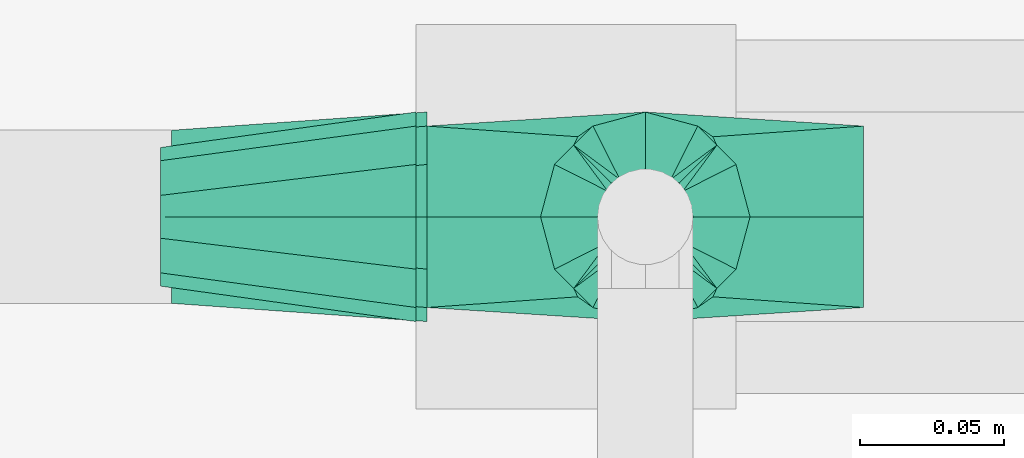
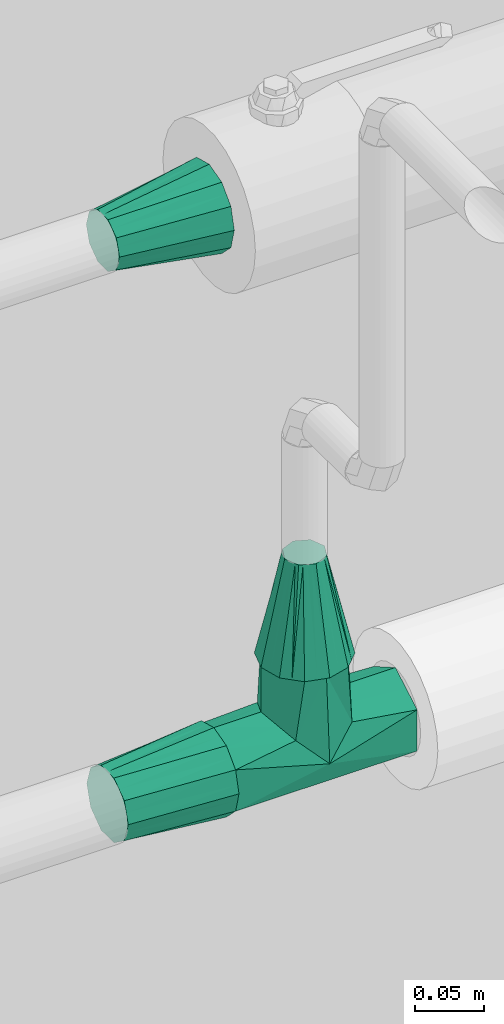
# One storey, part 92 of 94: 4 flow fittings.
"""IFC2X3 building model written with IfcOpenShell, lengths in millimetres."""

from ifc_helpers import new_model, entity, si_unit, converted_unit, derived_unit, direction, frame, origin, place, context, subcontext, project, spatial, faceted_brep, source, transform, mapped, material, type_object, type_shapes, element, save


model = new_model("IFC2X3")

# Units and contexts
model_context = context("Model", 3, precision=0.01, world=origin(), true_north=direction((6.123031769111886e-17, 1.0)))
body_context = subcontext(model_context, "Body", "Model", "MODEL_VIEW")
ifc_project = project(units=[si_unit("LENGTHUNIT", "METRE", prefix="MILLI"), si_unit("AREAUNIT", "SQUARE_METRE"), si_unit("VOLUMEUNIT", "CUBIC_METRE"), converted_unit("PLANEANGLEUNIT", "DEGREE", entity("IfcRatioMeasure", 0.017453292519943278), si_unit("PLANEANGLEUNIT", "RADIAN"), dimensions=[0, 0, 0, 0, 0, 0, 0]), si_unit("MASSUNIT", "GRAM", prefix="KILO"), derived_unit("MASSDENSITYUNIT", [(si_unit("MASSUNIT", "GRAM", prefix="KILO"), 1), (si_unit("LENGTHUNIT", "METRE"), -3)]), derived_unit("IONCONCENTRATIONUNIT", [(si_unit("MASSUNIT", "GRAM", prefix="KILO"), 1), (si_unit("LENGTHUNIT", "METRE"), -3)]), derived_unit("MOMENTOFINERTIAUNIT", [(si_unit("LENGTHUNIT", "METRE"), 4)]), si_unit("TIMEUNIT", "SECOND"), si_unit("FREQUENCYUNIT", "HERTZ"), si_unit("THERMODYNAMICTEMPERATUREUNIT", "DEGREE_CELSIUS"), derived_unit("THERMALTRANSMITTANCEUNIT", [(si_unit("MASSUNIT", "GRAM", prefix="KILO"), 1), (si_unit("THERMODYNAMICTEMPERATUREUNIT", "KELVIN"), -1), (si_unit("TIMEUNIT", "SECOND"), -3)]), derived_unit("THERMALCONDUCTANCEUNIT", [(si_unit("MASSUNIT", "GRAM", prefix="KILO"), 1), (si_unit("THERMODYNAMICTEMPERATUREUNIT", "KELVIN"), -1), (si_unit("TIMEUNIT", "SECOND"), -3), (si_unit("LENGTHUNIT", "METRE"), 1)]), derived_unit("VOLUMETRICFLOWRATEUNIT", [(si_unit("LENGTHUNIT", "METRE"), 3), (si_unit("TIMEUNIT", "SECOND"), -1)]), derived_unit("MASSFLOWRATEUNIT", [(si_unit("MASSUNIT", "GRAM", prefix="KILO"), 1), (si_unit("TIMEUNIT", "SECOND"), -1)]), derived_unit("ROTATIONALFREQUENCYUNIT", [(si_unit("TIMEUNIT", "SECOND"), -1)]), si_unit("ELECTRICCURRENTUNIT", "AMPERE"), si_unit("ELECTRICVOLTAGEUNIT", "VOLT"), si_unit("POWERUNIT", "WATT"), si_unit("FORCEUNIT", "NEWTON", prefix="KILO"), si_unit("ILLUMINANCEUNIT", "LUX"), si_unit("LUMINOUSFLUXUNIT", "LUMEN"), si_unit("LUMINOUSINTENSITYUNIT", "CANDELA"), derived_unit("USERDEFINED", [(si_unit("MASSUNIT", "GRAM", prefix="KILO"), -1), (si_unit("LENGTHUNIT", "METRE"), -2), (si_unit("TIMEUNIT", "SECOND"), 3), (si_unit("LUMINOUSFLUXUNIT", "LUMEN"), 1)]), derived_unit("USERDEFINED", [(si_unit("MASSUNIT", "GRAM", prefix="KILO"), 1), (si_unit("TIMEUNIT", "SECOND"), -3), (si_unit("LENGTHUNIT", "METRE"), 3), (si_unit("ELECTRICCURRENTUNIT", "AMPERE"), -2)]), derived_unit("SOUNDPOWERUNIT", [(si_unit("MASSUNIT", "GRAM", prefix="KILO"), 1), (si_unit("TIMEUNIT", "SECOND"), -3), (si_unit("LENGTHUNIT", "METRE"), 2)]), derived_unit("SOUNDPRESSUREUNIT", [(si_unit("MASSUNIT", "GRAM", prefix="KILO"), 1), (si_unit("LENGTHUNIT", "METRE"), -1), (si_unit("TIMEUNIT", "SECOND"), -2)]), derived_unit("LINEARVELOCITYUNIT", [(si_unit("LENGTHUNIT", "METRE"), 1), (si_unit("TIMEUNIT", "SECOND"), -1)]), si_unit("PRESSUREUNIT", "PASCAL"), derived_unit("USERDEFINED", [(si_unit("MASSUNIT", "GRAM", prefix="KILO"), 1), (si_unit("LENGTHUNIT", "METRE"), -2), (si_unit("TIMEUNIT", "SECOND"), -2)]), derived_unit("LINEARFORCEUNIT", [(si_unit("MASSUNIT", "GRAM", prefix="KILO"), 1), (si_unit("TIMEUNIT", "SECOND"), -2)]), derived_unit("PLANARFORCEUNIT", [(si_unit("MASSUNIT", "GRAM", prefix="KILO"), 1), (si_unit("LENGTHUNIT", "METRE"), -1), (si_unit("TIMEUNIT", "SECOND"), -2)]), derived_unit("SPECIFICHEATCAPACITYUNIT", [(si_unit("THERMODYNAMICTEMPERATUREUNIT", "KELVIN"), -1), (si_unit("LENGTHUNIT", "METRE"), 2), (si_unit("TIMEUNIT", "SECOND"), -2)]), derived_unit("HEATINGVALUEUNIT", [(si_unit("LENGTHUNIT", "METRE"), 2), (si_unit("TIMEUNIT", "SECOND"), -2)]), derived_unit("VAPORPERMEABILITYUNIT", [(si_unit("LENGTHUNIT", "METRE"), -1), (si_unit("TIMEUNIT", "SECOND"), 1)]), derived_unit("DYNAMICVISCOSITYUNIT", [(si_unit("MASSUNIT", "GRAM", prefix="KILO"), 1), (si_unit("TIMEUNIT", "SECOND"), -1), (si_unit("LENGTHUNIT", "METRE"), -1)]), derived_unit("THERMALEXPANSIONCOEFFICIENTUNIT", [(si_unit("THERMODYNAMICTEMPERATUREUNIT", "KELVIN"), -1)]), derived_unit("MODULUSOFELASTICITYUNIT", [(si_unit("MASSUNIT", "GRAM", prefix="KILO"), 1), (si_unit("LENGTHUNIT", "METRE"), -1), (si_unit("TIMEUNIT", "SECOND"), -2)]), derived_unit("ISOTHERMALMOISTURECAPACITYUNIT", [(si_unit("LENGTHUNIT", "METRE"), 3), (si_unit("MASSUNIT", "GRAM", prefix="KILO"), -1)]), derived_unit("MOISTUREDIFFUSIVITYUNIT", [(si_unit("TIMEUNIT", "SECOND"), -1), (si_unit("LENGTHUNIT", "METRE"), 2)])], contexts=[model_context])

# Site, building, storey
site_placement = place(None, origin())
site = spatial("IfcSite", under=ifc_project, at=site_placement, Name="Default", CompositionType="ELEMENT")
building_placement = place(site_placement, origin())
building = spatial("IfcBuilding", under=site, at=building_placement, CompositionType="ELEMENT")
storey_placement = place(building_placement, origin())
storey = spatial("IfcBuildingStorey", under=building, at=storey_placement, Name="Niveau 0", CompositionType="ELEMENT", Elevation=0.0)

# Flow fittings
ifc_material = material(Name="<Unnamed>")
pipe_fitting_type_1 = type_object("IfcPipeFittingType", Name="Té - Générique:Standard", PredefinedType="NOTDEFINED", material=ifc_material)
shared_shape_1 = source(origin(), body_context, "Body", "Brep", [
    faceted_brep([(-76.0, -27.37500000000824, -15.804963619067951), (-76.0, -36.50000000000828, 0.0), (-76.0, -27.375000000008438, 15.804963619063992), (-76.0, -18.250000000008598, 31.609927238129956), (-76.0, 0.0, 31.609927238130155), (-76.0, 18.249999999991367, 31.609927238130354), (-76.0, 27.374999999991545, 15.804963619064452), (-76.0, 36.49999999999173, 0.0), (-76.0, 24.406706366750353, -20.946199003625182), (-76.0, 18.24999999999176, -31.609927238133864), (-76.0, 0.0, -31.609927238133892), (-76.0, -18.25000000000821, -31.60992723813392), (76.0, 18.24999999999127, -31.609927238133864), (76.0, 27.374999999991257, -15.804963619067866), (76.0, 36.49999999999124, 0.0), (76.0, 24.40670693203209, 20.946198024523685), (76.0, 18.24999999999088, 31.609927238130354), (76.0, 0.0, 31.609927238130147), (76.0, -18.250000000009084, 31.609927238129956), (76.0, -27.375000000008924, 15.804963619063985), (76.0, -36.50000000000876, 0.0), (76.0, -27.37500000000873, -15.804963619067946), (76.0, -18.250000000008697, -31.60992723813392), (76.0, 0.0, -31.60992723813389), (30.02820426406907, -30.028204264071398, 13.940459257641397), (23.55640852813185, -23.556408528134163, 27.880918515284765), (-23.556408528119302, -23.556408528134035, 27.880918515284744), (-30.028204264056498, -30.02820426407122, 13.940459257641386), (0.0, 0.0, 36.49999999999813), (31.4301047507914, -31.430104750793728, 10.920719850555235), (36.500000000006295, -36.50000000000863, 0.0), (-36.49999999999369, -36.5000000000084, 0.0), (-31.430105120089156, -31.430105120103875, 10.920719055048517), (30.028204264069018, -30.02820426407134, -13.940459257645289), (0.0, 0.0, -36.50000000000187), (-23.556408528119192, -23.556408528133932, -27.880918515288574), (23.556408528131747, -23.556408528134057, -27.880918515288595), (31.430105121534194, -31.430105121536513, -10.920719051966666), (-30.02820426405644, -30.028204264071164, -13.940459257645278), (-31.4301048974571, -31.430104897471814, -10.92071953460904), (18.25000000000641, -76.0, -31.609927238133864), (27.37500000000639, -76.0, -15.804963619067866), (36.500000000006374, -76.0, 0.0), (27.37500000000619, -76.0, 15.804963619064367), (18.250000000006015, -76.0, 31.609927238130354), (0.0, -76.0, 31.609927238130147), (-18.249999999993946, -76.0, 31.609927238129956), (-27.374999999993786, -76.0, 15.804963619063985), (-36.499999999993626, -76.0, 0.0), (-27.374999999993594, -76.0, -15.804963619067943), (-18.24999999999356, -76.0, -31.60992723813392), (0.0, -76.0, -31.609927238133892)], [[[0, 1, 2, 3, 4, 5, 6, 7, 8, 9, 10, 11]], [[12, 13, 14, 15, 16, 17, 18, 19, 20, 21, 22, 23]], [[24, 20, 19]], [[25, 19, 18]], [[26, 3, 2]], [[19, 25, 24]], [[27, 26, 2]], [[28, 18, 17, 16]], [[20, 24, 29, 30]], [[1, 31, 32, 27]], [[28, 5, 4, 3]], [[1, 27, 2]], [[5, 16, 15, 14, 7, 6]], [[3, 26, 28]], [[5, 28, 16]], [[28, 25, 18]], [[12, 9, 8, 7, 14, 13]], [[20, 33, 21]], [[11, 34, 35]], [[9, 12, 34]], [[36, 22, 21]], [[10, 9, 34, 11]], [[34, 12, 23, 22]], [[20, 30, 37, 33]], [[1, 38, 39, 31]], [[21, 33, 36]], [[0, 38, 1]], [[0, 35, 38]], [[35, 0, 11]], [[36, 34, 22]], [[40, 41, 42, 43, 44, 45, 46, 47, 48, 49, 50, 51]], [[26, 47, 46]], [[48, 32, 31]], [[32, 48, 47]], [[26, 46, 45]], [[45, 44, 25]], [[42, 30, 29]], [[29, 43, 42]], [[47, 26, 27, 32]], [[26, 45, 28]], [[43, 25, 44]], [[45, 25, 28]], [[43, 29, 24, 25]], [[36, 41, 40]], [[49, 39, 38, 35]], [[41, 36, 33, 37]], [[37, 42, 41]], [[36, 40, 51]], [[51, 50, 35]], [[51, 35, 34]], [[39, 49, 48]], [[42, 37, 30]], [[48, 31, 39]], [[36, 51, 34]], [[49, 35, 50]]]),
])
type_shapes(pipe_fitting_type_1, [shared_shape_1])
flow_fitting_1_placement = place(storey_placement, frame((-10883.23321817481, 9922.47054616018, 877.6034575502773), z_axis=(0.0, 1.0, 0.0), x_axis=(1.0, 0.0, 0.0)))
element("IfcFlowFitting", 1, at=flow_fitting_1_placement, inside=storey, type_object=pipe_fitting_type_1, material=ifc_material, Name="Té - Générique:Standard", ObjectType="Té - Générique:Standard", context=body_context, shape_type="MappedRepresentation", body=[
    mapped(shared_shape_1, transform((0.0, 0.0, 0.0), scale=1.0)),
])
pipe_fitting_type_2 = type_object("IfcPipeFittingType", Name="Transformation - Générique:Standard", PredefinedType="NOTDEFINED", material=ifc_material)
shared_shape_2 = source(origin(), body_context, "Body", "Brep", [
    faceted_brep([(89.0, 16.699999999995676, 0.0), (89.0, 15.477170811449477, 2.9521708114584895), (89.0, 14.254341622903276, 5.904341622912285), (89.0, 13.031512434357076, 8.85651243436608), (89.0, 11.808683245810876, 11.808683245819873), (89.0, 8.856512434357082, 13.03151243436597), (89.0, 5.90434162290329, 14.254341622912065), (89.0, 2.952170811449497, 15.477170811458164), (89.0, 0.0, 16.70000000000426), (89.0, -2.9521708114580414, 15.47717081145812), (89.0, -5.904341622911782, 14.254341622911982), (89.0, -8.856512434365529, 13.031512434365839), (89.0, -11.808683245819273, 11.808683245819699), (89.0, -13.03151243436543, 8.856512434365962), (89.0, -14.254341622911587, 5.904341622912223), (89.0, -15.477170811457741, 2.9521708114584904), (89.0, -16.70000000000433, 0.0), (89.0, -15.477170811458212, -2.9521708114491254), (89.0, -14.254341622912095, -5.904341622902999), (89.0, -13.03151243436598, -8.85651243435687), (89.0, -11.80868324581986, -11.808683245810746), (89.0, -8.856512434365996, -13.031512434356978), (89.0, -5.90434162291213, -14.254341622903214), (89.0, -2.9521708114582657, -15.477170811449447), (89.0, 0.0, -16.699999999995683), (89.0, 2.9521708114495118, -15.477170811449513), (89.0, 5.9043416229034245, -14.254341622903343), (89.0, 8.856512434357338, -13.031512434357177), (89.0, 11.808683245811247, -11.808683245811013), (89.0, 13.03151243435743, -8.856512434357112), (89.0, 14.25434162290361, -5.904341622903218), (89.0, 15.477170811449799, -2.952170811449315), (0.0, 24.929963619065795, 24.929963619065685), (0.0, 31.609927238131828, 18.24999999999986), (0.0, 34.054963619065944, 9.124999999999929), (0.0, 36.50000000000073, 0.0), (0.0, 34.054963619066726, -9.12500000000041), (0.0, 31.609927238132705, -18.25000000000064), (0.0, 24.929963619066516, -24.929963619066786), (0.0, 18.25000000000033, -31.609927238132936), (0.0, 9.125000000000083, -34.0549636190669), (0.0, 0.0, -36.50000000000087), (0.0, -9.12500000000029, -34.054963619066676), (0.0, -18.250000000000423, -31.609927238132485), (0.0, -24.929963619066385, -24.92996361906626), (0.0, -31.60992723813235, -18.250000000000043), (0.0, -34.054963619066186, -9.124999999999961), (0.0, -36.499999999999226, 0.0), (0.0, -34.054963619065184, 9.124999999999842), (0.0, -31.60992723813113, 18.249999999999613), (0.0, -24.929963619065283, 24.929963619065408), (0.0, -18.249999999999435, 31.609927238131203), (0.0, -9.124999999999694, 34.054963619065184), (0.0, 0.0, 36.49999999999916), (0.0, 9.124999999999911, 34.05496361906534), (0.0, 18.249999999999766, 31.609927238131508)], [[[0, 1, 2, 3, 4, 5, 6, 7, 8, 9, 10, 11, 12, 13, 14, 15, 16, 17, 18, 19, 20, 21, 22, 23, 24, 25, 26, 27, 28, 29, 30, 31]], [[32, 33, 34, 35, 36, 37, 38, 39, 40, 41, 42, 43, 44, 45, 46, 47, 48, 49, 50, 51, 52, 53, 54, 55]], [[38, 29, 28]], [[37, 30, 29]], [[26, 40, 39]], [[25, 41, 40]], [[30, 37, 36]], [[19, 44, 20]], [[25, 24, 41]], [[40, 26, 25]], [[43, 21, 44]], [[19, 45, 44]], [[22, 43, 42]], [[44, 21, 20]], [[27, 38, 28]], [[47, 17, 16]], [[36, 31, 30]], [[43, 22, 21]], [[46, 17, 47]], [[37, 29, 38]], [[38, 27, 39]], [[0, 31, 35]], [[41, 23, 42]], [[19, 18, 45]], [[35, 31, 36]], [[46, 18, 17]], [[45, 18, 46]], [[27, 26, 39]], [[23, 41, 24]], [[23, 22, 42]], [[50, 13, 12]], [[49, 14, 13]], [[10, 52, 51]], [[9, 53, 52]], [[14, 49, 48]], [[3, 32, 4]], [[9, 8, 53]], [[52, 10, 9]], [[55, 5, 32]], [[3, 33, 32]], [[6, 55, 54]], [[32, 5, 4]], [[11, 50, 12]], [[35, 1, 0]], [[48, 15, 14]], [[55, 6, 5]], [[34, 1, 35]], [[49, 13, 50]], [[50, 11, 51]], [[16, 15, 47]], [[53, 7, 54]], [[3, 2, 33]], [[47, 15, 48]], [[34, 2, 1]], [[33, 2, 34]], [[11, 10, 51]], [[7, 53, 8]], [[7, 6, 54]]]),
])
type_shapes(pipe_fitting_type_2, [shared_shape_2])
flow_fitting_2_placement = place(storey_placement, frame((-10883.233218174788, 9922.470546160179, 953.6034575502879), z_axis=(0.0, 1.0, 0.0), x_axis=(0.0, 0.0, 1.0)))
element("IfcFlowFitting", 2, at=flow_fitting_2_placement, inside=storey, type_object=pipe_fitting_type_2, material=ifc_material, Name="Transformation - Générique:Standard", ObjectType="Transformation - Générique:Standard", context=body_context, shape_type="MappedRepresentation", body=[
    mapped(shared_shape_2, transform((0.0, 0.0, 0.0), scale=1.0)),
])
pipe_fitting_type_3 = type_object("IfcPipeFittingType", Name="Transformation - Générique:Standard", PredefinedType="NOTDEFINED", material=ifc_material)
shared_shape_3 = source(origin(), body_context, "Body", "Brep", [
    faceted_brep([(89.0, 30.149999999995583, 0.0), (89.0, 27.27093119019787, 8.860862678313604), (89.0, 24.391862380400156, 17.72172535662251), (89.0, 16.854362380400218, 23.1980396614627), (89.0, 9.316862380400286, 28.674353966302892), (89.0, 0.0, 28.674353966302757), (89.0, -9.316862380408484, 28.674353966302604), (89.0, -16.85436238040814, 23.19803966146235), (89.0, -24.391862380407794, 17.721725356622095), (89.0, -27.270931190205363, 8.860862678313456), (89.0, -30.15000000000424, 0.0), (89.0, -27.270931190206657, -8.860862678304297), (89.0, -24.391862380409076, -17.721725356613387), (89.0, -16.854362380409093, -23.198039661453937), (89.0, -9.316862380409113, -28.674353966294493), (89.0, 0.0, -28.674353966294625), (89.0, 9.316862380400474, -28.674353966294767), (89.0, 16.85436238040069, -23.198039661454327), (89.0, 24.391862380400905, -17.721725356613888), (89.0, 27.270931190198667, -8.860862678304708), (0.0, 24.92996361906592, 24.92996361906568), (0.0, 31.60992723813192, 18.249999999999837), (0.0, 34.6588294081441, 6.87134219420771), (0.0, 36.500000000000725, 0.0), (0.0, 34.65882944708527, -6.871342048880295), (0.0, 31.609927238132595, -18.25000000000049), (0.0, 24.92996361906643, -24.929963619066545), (0.0, 18.250000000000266, -31.6099272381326), (0.0, 9.125000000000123, -34.05496361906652), (0.0, 0.0, -36.50000000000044), (0.0, -9.12500000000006, -34.054963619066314), (0.0, -18.25000000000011, -31.60992723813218), (0.0, -24.92996361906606, -24.929963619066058), (0.0, -31.609927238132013, -18.249999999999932), (0.0, -34.65882940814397, -6.87134219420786), (0.0, -36.49999999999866, 0.0), (0.0, -34.65882944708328, 6.871342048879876), (0.0, -31.60992723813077, 18.24999999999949), (0.0, -24.92996361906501, 24.929963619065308), (0.0, -18.249999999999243, 31.60992723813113), (0.0, -9.124999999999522, 34.05496361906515), (0.0, 0.0, 36.499999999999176), (0.0, 9.12500000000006, 34.054963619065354), (0.0, 18.249999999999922, 31.609927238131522)], [[[0, 1, 2, 3, 4, 5, 6, 7, 8, 9, 10, 11, 12, 13, 14, 15, 16, 17, 18, 19]], [[20, 21, 22, 23, 24, 25, 26, 27, 28, 29, 30, 31, 32, 33, 34, 35, 36, 37, 38, 39, 40, 41, 42, 43]], [[26, 17, 27]], [[25, 18, 26]], [[17, 26, 18]], [[25, 19, 18]], [[24, 0, 19]], [[31, 14, 13]], [[33, 11, 34]], [[17, 16, 27]], [[14, 30, 15]], [[16, 15, 28]], [[12, 32, 13]], [[30, 29, 15]], [[31, 13, 32]], [[10, 34, 11]], [[25, 24, 19]], [[14, 31, 30]], [[0, 24, 23]], [[11, 33, 12]], [[12, 33, 32]], [[10, 35, 34]], [[28, 15, 29]], [[28, 27, 16]], [[38, 7, 39]], [[37, 8, 38]], [[7, 38, 8]], [[37, 9, 8]], [[36, 10, 9]], [[43, 4, 3]], [[21, 1, 22]], [[7, 6, 39]], [[4, 42, 5]], [[6, 5, 40]], [[2, 20, 3]], [[42, 41, 5]], [[43, 3, 20]], [[0, 22, 1]], [[37, 36, 9]], [[4, 43, 42]], [[10, 36, 35]], [[1, 21, 2]], [[2, 21, 20]], [[0, 23, 22]], [[40, 5, 41]], [[40, 39, 6]]]),
])
type_shapes(pipe_fitting_type_3, [shared_shape_3])
flow_fitting_3_placement = place(storey_placement, frame((-10959.233218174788, 9922.470546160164, 877.603457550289), z_axis=(0.0, 0.0, 1.0), x_axis=(-1.0, 0.0, 0.0)))
element("IfcFlowFitting", 3, at=flow_fitting_3_placement, inside=storey, type_object=pipe_fitting_type_3, material=ifc_material, Name="Transformation - Générique:Standard", ObjectType="Transformation - Générique:Standard", context=body_context, shape_type="MappedRepresentation", body=[
    mapped(shared_shape_3, transform((0.0, 0.0, 0.0), scale=1.0)),
])
pipe_fitting_type_4 = type_object("IfcPipeFittingType", Name="Transformation - Générique:Standard", PredefinedType="NOTDEFINED", material=ifc_material)
shared_shape_4 = source(origin(), body_context, "Body", "Brep", [
    faceted_brep([(89.0, 19.5377604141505, 14.195013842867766), (89.0, 13.500260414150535, 18.58151435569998), (89.0, 7.462760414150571, 22.968014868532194), (89.0, 0.0, 22.968014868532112), (89.0, -7.462760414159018, 22.968014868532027), (89.0, -13.500260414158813, 18.581514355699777), (89.0, -19.537760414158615, 14.195013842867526), (89.0, -21.843880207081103, 7.0975069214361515), (89.0, -24.15000000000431, 0.0), (89.0, -21.843880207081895, -7.097506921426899), (89.0, -19.537760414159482, -14.195013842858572), (89.0, -13.500260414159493, -18.58151435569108), (89.0, -7.4627604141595, -22.968014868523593), (89.0, 0.0, -22.9680148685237), (89.0, 7.4627604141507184, -22.968014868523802), (89.0, 13.5002604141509, -18.58151435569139), (89.0, 19.537760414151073, -14.195013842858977), (89.0, 21.843880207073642, -7.097506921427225), (89.0, 24.149999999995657, 0.0), (89.0, 21.843880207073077, 7.0975069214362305), (0.0, 9.124999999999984, 34.05496361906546), (0.0, 18.24999999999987, 31.609927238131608), (0.0, 24.929963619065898, 24.929963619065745), (0.0, 31.609927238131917, 18.24999999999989), (0.0, 34.75590378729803, 6.5090556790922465), (0.0, 36.500000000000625, 0.0), (0.0, 34.75590385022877, -6.509055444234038), (0.0, 31.609927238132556, -18.25000000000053), (0.0, 24.929963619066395, -24.929963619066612), (0.0, 18.250000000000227, -31.60992723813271), (0.0, 9.125000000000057, -34.05496361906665), (0.0, 0.0, -36.50000000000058), (0.0, -9.12500000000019, -34.054963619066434), (0.0, -18.250000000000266, -31.609927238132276), (0.0, -24.929963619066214, -24.92996361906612), (0.0, -31.609927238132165, -18.249999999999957), (0.0, -34.75590378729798, -6.509055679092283), (0.0, -36.49999999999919, 0.0), (0.0, -34.75590385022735, 6.5090554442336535), (0.0, -31.609927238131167, 18.24999999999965), (0.0, -24.929963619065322, 24.929963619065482), (0.0, -18.249999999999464, 31.60992723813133), (0.0, -9.12499999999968, 34.054963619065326), (0.0, 0.0, 36.49999999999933)], [[[0, 1, 2, 3, 4, 5, 6, 7, 8, 9, 10, 11, 12, 13, 14, 15, 16, 17, 18, 19]], [[20, 21, 22, 23, 24, 25, 26, 27, 28, 29, 30, 31, 32, 33, 34, 35, 36, 37, 38, 39, 40, 41, 42, 43]], [[28, 15, 29]], [[27, 16, 28]], [[15, 28, 16]], [[27, 17, 16]], [[26, 18, 17]], [[33, 12, 11]], [[15, 14, 29]], [[30, 29, 14]], [[12, 32, 13]], [[14, 13, 30]], [[10, 34, 11]], [[8, 37, 36]], [[32, 31, 13]], [[8, 36, 9]], [[27, 26, 17]], [[12, 33, 32]], [[18, 26, 25]], [[9, 35, 10]], [[10, 35, 34]], [[35, 9, 36]], [[33, 11, 34]], [[30, 13, 31]], [[40, 5, 41]], [[39, 6, 40]], [[5, 40, 6]], [[39, 7, 6]], [[38, 8, 7]], [[21, 2, 1]], [[5, 4, 41]], [[42, 41, 4]], [[2, 20, 3]], [[4, 3, 42]], [[0, 22, 1]], [[18, 25, 24]], [[20, 43, 3]], [[18, 24, 19]], [[39, 38, 7]], [[2, 21, 20]], [[8, 38, 37]], [[19, 23, 0]], [[0, 23, 22]], [[23, 19, 24]], [[21, 1, 22]], [[42, 3, 43]]]),
])
type_shapes(pipe_fitting_type_4, [shared_shape_4])
flow_fitting_4_placement = place(storey_placement, frame((-10963.113218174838, 9922.470546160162, 1377.6034575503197), z_axis=(0.0, 0.0, 1.0), x_axis=(-1.0, 0.0, 0.0)))
element("IfcFlowFitting", 4, at=flow_fitting_4_placement, inside=storey, type_object=pipe_fitting_type_4, material=ifc_material, Name="Transformation - Générique:Standard", ObjectType="Transformation - Générique:Standard", context=body_context, shape_type="MappedRepresentation", body=[
    mapped(shared_shape_4, transform((0.0, 0.0, 0.0), scale=1.0)),
])

save(model, "model.ifc")
